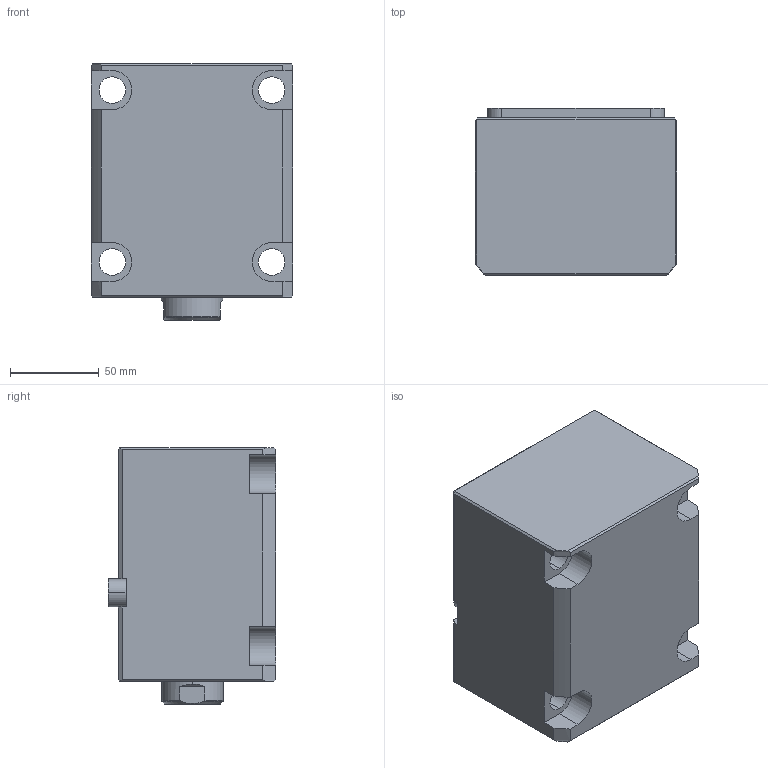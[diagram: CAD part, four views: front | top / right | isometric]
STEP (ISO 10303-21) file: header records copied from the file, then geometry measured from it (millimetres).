
FILE_DESCRIPTION (( 'STEP AP214' ), '1' );
FILE_NAME ('chtb-lam63x65n_asm.STEP', '2018-05-22T03:11:08', ( 'Windows' ), ( 'Microsoft' ), 'SwSTEP 2.0', 'SolidWorks 2015', '' );
FILE_SCHEMA (( 'AUTOMOTIVE_DESIGN' ));
Length unit declared in the file: millimetre
Products named in the file (5): CHTB-LAM63X65NBT; CHTB63X65NHSG; CHTB-63QG; chtb-lam63x65n_asm; CHTB-LA63PJ
Assembly tree (4 placements, depth 2):
  chtb-lam63x65n_asm
    CHTB-63QG
    CHTB63X65NHSG
    CHTB-LAM63X65NBT
    CHTB-LA63PJ
Bounding box: 114 x 94.5 x 145 mm (x, y, z)
Volume: 1124625.6 mm3; surface area: 161562.9 mm2
Topology: 4 solids, 4 shells, 183 faces, 539 edges, 366 vertices
Faces by surface type: cylinder 99, plane 55, bspline 13, cone 8, torus 8
Entity records: 19040 total; most frequent: CARTESIAN_POINT 14352, ORIENTED_EDGE 1066, DIRECTION 788, EDGE_CURVE 533, VERTEX_POINT 366, AXIS2_PLACEMENT_3D 291, VECTOR 206, LINE 206
